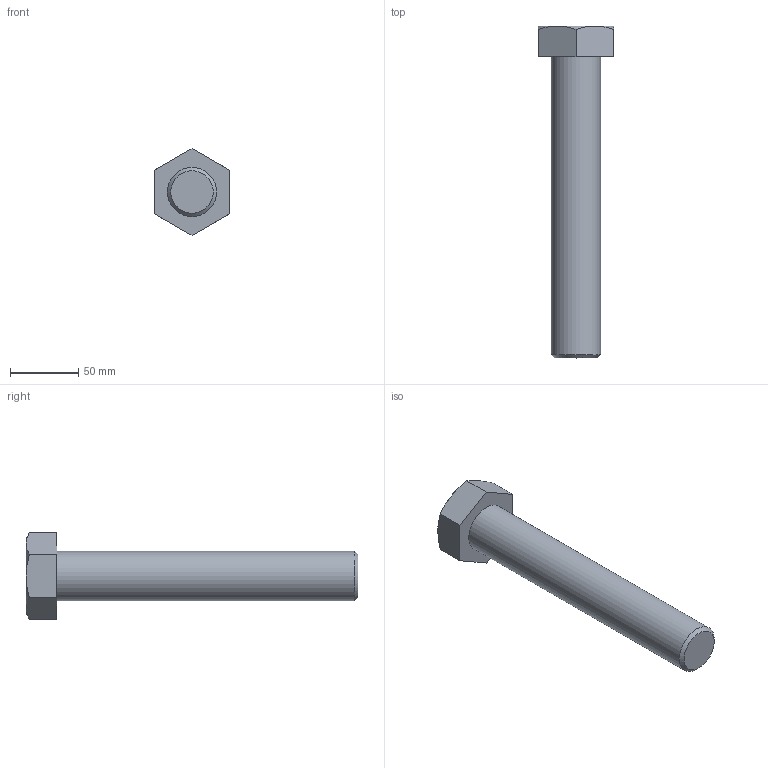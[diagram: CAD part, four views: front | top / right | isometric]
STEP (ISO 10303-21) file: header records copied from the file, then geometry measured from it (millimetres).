
FILE_DESCRIPTION(/* description */ (''),/* implementation_level */ '2;1');
FILE_NAME(/* name */ 'C:\Users\unitec\Documents\Inventor\各種小物\JIS\JIS B 1180 六角ボルト 等級C\hbc36\M36x220.stp',/* time_stamp */ '2015-02-13T14:56:38+09:00',/* author */ ('unitec'),/* organization */ (''),/* preprocessor_version */ 'ST-DEVELOPER v15.2',/* originating_system */ 'Autodesk Inventor 2014',/* authorisation */ '');
FILE_SCHEMA (('AUTOMOTIVE_DESIGN { 1 0 10303 214 3 1 1 }'));
Length unit declared in the file: millimetre
Products named in the file (1): M36x220
Bounding box: 55 x 242.5 x 63.51 mm (x, y, z)
Volume: 282371.9 mm3; surface area: 34114.8 mm2
Topology: 1 solids, 1 shells, 17 faces, 35 edges, 21 vertices
Faces by surface type: plane 9, cone 7, cylinder 1
Full cylindrical faces by diameter (mm): 36 x1
Entity records: 441 total; most frequent: CARTESIAN_POINT 96, ORIENTED_EDGE 66, DIRECTION 66, EDGE_CURVE 33, AXIS2_PLACEMENT_3D 27, VERTEX_POINT 21, EDGE_LOOP 20, ADVANCED_FACE 17
